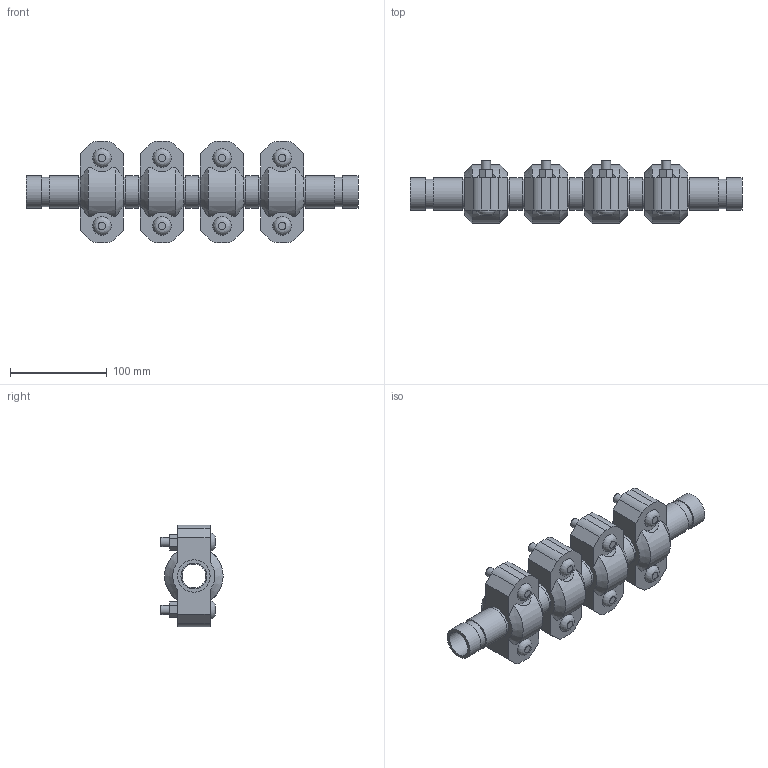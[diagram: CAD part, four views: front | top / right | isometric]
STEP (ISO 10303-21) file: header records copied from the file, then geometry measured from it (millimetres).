
FILE_DESCRIPTION(/* description */ ('VIC EXPANSION JOINT 4 COUPLINGS EXPANDED STYLE 155 (OGS)','CAx-IF Rec.Pracs.---Representation and Presentation of Product Manufacturing Information (PMI)---4.0---2014-10-13'),/* implementation_level */ '2;1');
FILE_NAME(/* name */ 'C:\Users\kkamble\AppData\Roaming\Autodesk\ApplicationPlugins\Victaulic.Temp\A310\Victaulic_IPS_Expansion Joint_Expanded_4 Couplings_Style 155 (OGS)_1 (25).stp',/* time_stamp */ '2021-06-26T23:59:58+02:00',/* author */ ('kkamble'),/* organization */ ('Victaulic'),/* preprocessor_version */ 'ST-DEVELOPER v17.2',/* originating_system */ 'Autodesk Inventor 2019',/* authorisation */ '');
FILE_SCHEMA (('AP242_MANAGED_MODEL_BASED_3D_ENGINEERING_MIM_LF { 1 0 10303 442 1 1 4 }'));
Length unit declared in the file: inch
Products named in the file (4): 155-01.0; Nipple-01.0; Nipple-01.0_1; 077-01.0
Assembly tree (9 placements, depth 2):
  155-01.0
    Nipple-01.0  x2
    Nipple-01.0_1  x3
    077-01.0  x4
Bounding box: 342.65 x 64.33 x 104.65 mm (x, y, z)
Volume: 678007.9 mm3; surface area: 186589.5 mm2
Topology: 9 solids, 17 shells, 304 faces, 730 edges, 512 vertices
Faces by surface type: plane 174, cylinder 106, cone 16, bspline 8
Full cylindrical faces by diameter (mm): 9.525 x16, 11.43 x8, 24.511 x4, 26.645 x5, 30.226 x10, 33.401 x23
Entity records: 2969 total; most frequent: CARTESIAN_POINT 569, DIRECTION 481, ORIENTED_EDGE 410, EDGE_CURVE 205, AXIS2_PLACEMENT_3D 192, VERTEX_POINT 146, EDGE_LOOP 111, LINE 97
